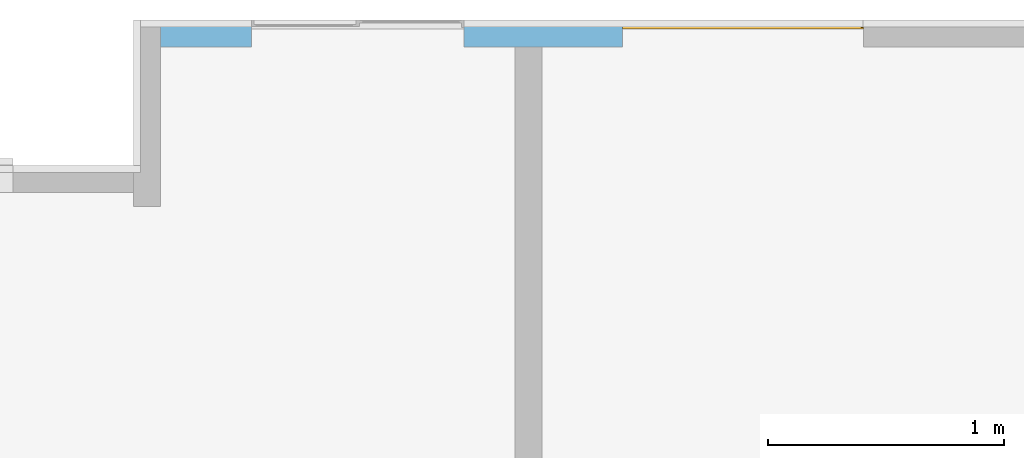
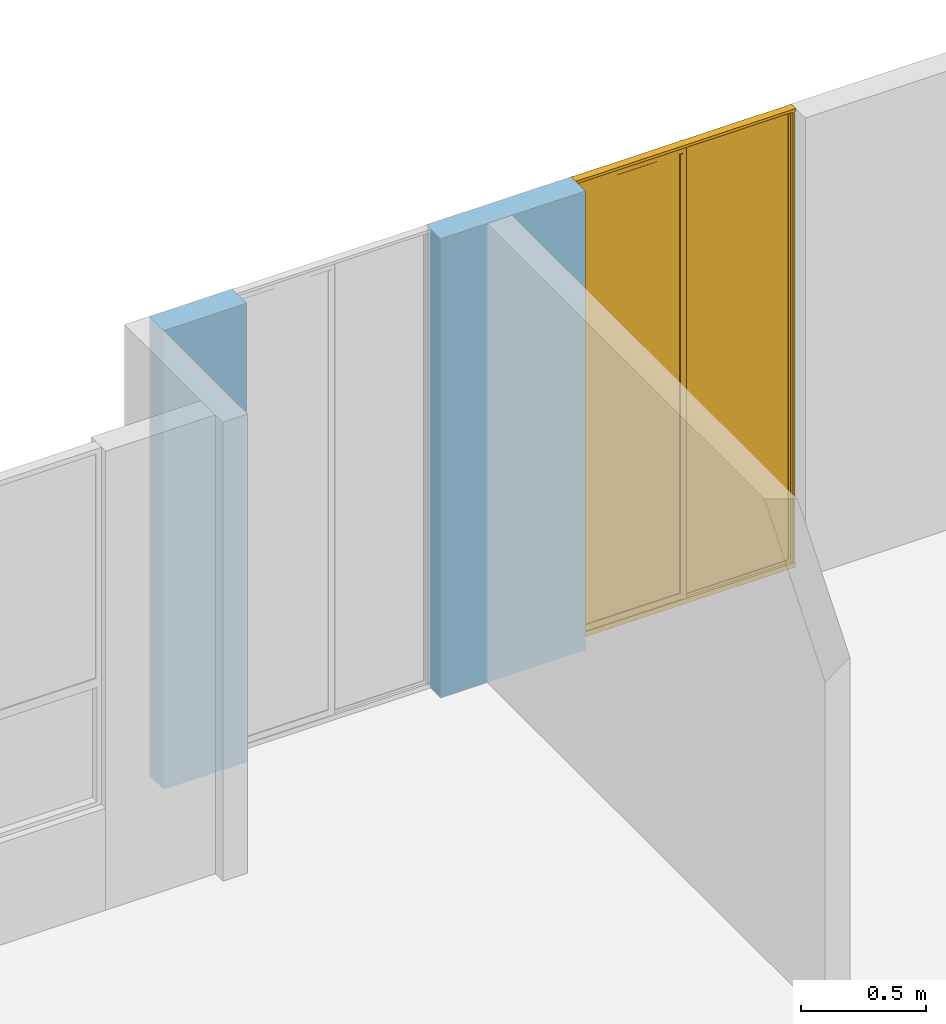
# One storey, part 25 of 48: 1 window, 2 openings, plus 1 element that does not belong to this part.
"""IFC4 building model written with IfcOpenShell, lengths in metres."""

from ifc_helpers import new_model, entity, si_unit, converted_unit, derived_unit, direction, frame, origin, place, context, subcontext, project, spatial, indexed_curve, outline, extrude, polygons, source, transform, mapped, material, constituent, constituent_set, type_object, type_shapes, element, fill, save


model = new_model("IFC4")

# Units and contexts
model_context = context("Model", 3, precision=1e-05, world=origin(), true_north=direction((6.123031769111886e-17, 1.0)))
body_context = subcontext(model_context, "Body", "Model", "MODEL_VIEW")
ifc_project = project(units=[si_unit("LENGTHUNIT", "METRE"), si_unit("AREAUNIT", "SQUARE_METRE"), si_unit("VOLUMEUNIT", "CUBIC_METRE"), converted_unit("PLANEANGLEUNIT", "DEGREE", entity("IfcRatioMeasure", 0.017453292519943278), si_unit("PLANEANGLEUNIT", "RADIAN"), dimensions=[0, 0, 0, 0, 0, 0, 0]), si_unit("MASSUNIT", "GRAM", prefix="KILO"), derived_unit("MASSDENSITYUNIT", [(si_unit("MASSUNIT", "GRAM", prefix="KILO"), 1), (si_unit("LENGTHUNIT", "METRE"), -3)]), derived_unit("IONCONCENTRATIONUNIT", [(si_unit("MASSUNIT", "GRAM", prefix="KILO"), 1), (si_unit("LENGTHUNIT", "METRE"), -3)]), derived_unit("MOMENTOFINERTIAUNIT", [(si_unit("LENGTHUNIT", "METRE"), 4)]), si_unit("TIMEUNIT", "SECOND"), si_unit("FREQUENCYUNIT", "HERTZ"), si_unit("THERMODYNAMICTEMPERATUREUNIT", "DEGREE_CELSIUS"), derived_unit("THERMALTRANSMITTANCEUNIT", [(si_unit("MASSUNIT", "GRAM", prefix="KILO"), 1), (si_unit("THERMODYNAMICTEMPERATUREUNIT", "KELVIN"), -1), (si_unit("TIMEUNIT", "SECOND"), -3)]), derived_unit("THERMALCONDUCTANCEUNIT", [(si_unit("MASSUNIT", "GRAM", prefix="KILO"), 1), (si_unit("THERMODYNAMICTEMPERATUREUNIT", "KELVIN"), -1), (si_unit("TIMEUNIT", "SECOND"), -3), (si_unit("LENGTHUNIT", "METRE"), 1)]), derived_unit("VOLUMETRICFLOWRATEUNIT", [(si_unit("LENGTHUNIT", "METRE"), 3), (si_unit("TIMEUNIT", "SECOND"), -1)]), derived_unit("MASSFLOWRATEUNIT", [(si_unit("MASSUNIT", "GRAM", prefix="KILO"), 1), (si_unit("TIMEUNIT", "SECOND"), -1)]), derived_unit("ROTATIONALFREQUENCYUNIT", [(si_unit("TIMEUNIT", "SECOND"), -1)]), si_unit("ELECTRICCURRENTUNIT", "AMPERE"), si_unit("ELECTRICVOLTAGEUNIT", "VOLT"), si_unit("POWERUNIT", "WATT"), si_unit("FORCEUNIT", "NEWTON", prefix="KILO"), si_unit("ILLUMINANCEUNIT", "LUX"), si_unit("LUMINOUSFLUXUNIT", "LUMEN"), si_unit("LUMINOUSINTENSITYUNIT", "CANDELA"), derived_unit("USERDEFINED", [(si_unit("MASSUNIT", "GRAM", prefix="KILO"), -1), (si_unit("LENGTHUNIT", "METRE"), -2), (si_unit("TIMEUNIT", "SECOND"), 3), (si_unit("LUMINOUSFLUXUNIT", "LUMEN"), 1)]), derived_unit("USERDEFINED", [(si_unit("MASSUNIT", "GRAM", prefix="KILO"), 1), (si_unit("TIMEUNIT", "SECOND"), -3), (si_unit("LENGTHUNIT", "METRE"), 3), (si_unit("ELECTRICCURRENTUNIT", "AMPERE"), -2)]), derived_unit("SOUNDPOWERUNIT", [(si_unit("MASSUNIT", "GRAM", prefix="KILO"), 1), (si_unit("TIMEUNIT", "SECOND"), -3), (si_unit("LENGTHUNIT", "METRE"), 2)]), derived_unit("SOUNDPRESSUREUNIT", [(si_unit("MASSUNIT", "GRAM", prefix="KILO"), 1), (si_unit("LENGTHUNIT", "METRE"), -1), (si_unit("TIMEUNIT", "SECOND"), -2)]), derived_unit("LINEARVELOCITYUNIT", [(si_unit("LENGTHUNIT", "METRE"), 1), (si_unit("TIMEUNIT", "SECOND"), -1)]), si_unit("PRESSUREUNIT", "PASCAL"), derived_unit("USERDEFINED", [(si_unit("MASSUNIT", "GRAM", prefix="KILO"), 1), (si_unit("LENGTHUNIT", "METRE"), -2), (si_unit("TIMEUNIT", "SECOND"), -2)]), derived_unit("LINEARFORCEUNIT", [(si_unit("MASSUNIT", "GRAM", prefix="KILO"), 1), (si_unit("TIMEUNIT", "SECOND"), -2)]), derived_unit("PLANARFORCEUNIT", [(si_unit("MASSUNIT", "GRAM", prefix="KILO"), 1), (si_unit("LENGTHUNIT", "METRE"), -1), (si_unit("TIMEUNIT", "SECOND"), -2)]), derived_unit("SPECIFICHEATCAPACITYUNIT", [(si_unit("THERMODYNAMICTEMPERATUREUNIT", "KELVIN"), -1), (si_unit("LENGTHUNIT", "METRE"), 2), (si_unit("TIMEUNIT", "SECOND"), -2)]), derived_unit("HEATINGVALUEUNIT", [(si_unit("LENGTHUNIT", "METRE"), 2), (si_unit("TIMEUNIT", "SECOND"), -2)]), derived_unit("VAPORPERMEABILITYUNIT", [(si_unit("LENGTHUNIT", "METRE"), -1), (si_unit("TIMEUNIT", "SECOND"), 1)]), derived_unit("DYNAMICVISCOSITYUNIT", [(si_unit("MASSUNIT", "GRAM", prefix="KILO"), 1), (si_unit("TIMEUNIT", "SECOND"), -1), (si_unit("LENGTHUNIT", "METRE"), -1)]), derived_unit("THERMALEXPANSIONCOEFFICIENTUNIT", [(si_unit("THERMODYNAMICTEMPERATUREUNIT", "KELVIN"), -1)]), derived_unit("MODULUSOFELASTICITYUNIT", [(si_unit("MASSUNIT", "GRAM", prefix="KILO"), 1), (si_unit("LENGTHUNIT", "METRE"), -1), (si_unit("TIMEUNIT", "SECOND"), -2)]), derived_unit("ISOTHERMALMOISTURECAPACITYUNIT", [(si_unit("LENGTHUNIT", "METRE"), 3), (si_unit("MASSUNIT", "GRAM", prefix="KILO"), -1)]), derived_unit("MOISTUREDIFFUSIVITYUNIT", [(si_unit("TIMEUNIT", "SECOND"), -1), (si_unit("LENGTHUNIT", "METRE"), 2)])], contexts=[model_context])

# Site, building, storey
site_placement = place(None, origin())
site = spatial("IfcSite", under=ifc_project, at=site_placement, Name="Default", CompositionType="ELEMENT")
building_placement = place(site_placement, origin())
building = spatial("IfcBuilding", under=site, at=building_placement, CompositionType="ELEMENT")
storey_placement = place(building_placement, frame((0.0, 0.0, 7.050000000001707)))
storey = spatial("IfcBuildingStorey", under=building, at=storey_placement, Name="Nivel 4", CompositionType="ELEMENT", Elevation=7.050000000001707)

# Wall, openings, window
ifc_material_1 = material(Name="Ladrillo claro (Aire)", Category="Materials")
wall_type = type_object("IfcWallType", Name="Basic Wall:B2010 - 0.115m - Muro exterior en mampostería - Ladrillo", PredefinedType="STANDARD")
wall_placement = place(storey_placement, frame((12.577500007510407, -0.03750002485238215, 0.0)))
wall = element("IfcWall", 1, at=wall_placement, inside=storey, type_object=wall_type, material=ifc_material_1, Name="Basic Wall:B2010 - 0.115m - Muro exterior en mampostería - Ladrillo", ObjectType="Basic Wall:B2010 - 0.115m - Muro exterior en mampostería - Ladrillo", PredefinedType="NOTDEFINED", context=body_context, shape_type="Tessellation", body=[
    polygons([(1.1388049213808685e-15, -0.05749999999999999, 2.2500000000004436), (1.1388049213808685e-15, -0.05749999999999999, -1.0828671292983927e-15), (0.38500000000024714, -0.0575, -1.0828671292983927e-15), (0.38500000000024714, -0.0575, 2.2500000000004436), (-2.3974804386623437e-16, 0.0575, -1.0828671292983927e-15), (0.3850000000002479, 0.0575, -1.0828671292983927e-15), (-2.3974804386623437e-16, 0.0575, 2.2500000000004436), (0.3850000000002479, 0.05750000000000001, 2.2500000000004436)], [[[1, 2, 3, 4]], [[2, 5, 6, 3]], [[2, 1, 7, 5]], [[4, 3, 6, 8]], [[7, 1, 4, 8]], [[5, 7, 8, 6]]], closed=True),
    polygons([(1.2850000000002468, 0.0575, -1.0828671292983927e-15), (1.2850000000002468, 0.05749999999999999, 2.2500000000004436), (1.9557999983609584, 0.05749999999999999, 2.2500000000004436), (1.9557999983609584, 0.0575, -1.0828671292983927e-15), (1.285000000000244, -0.05749999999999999, 2.2500000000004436), (1.499999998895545, -0.05749999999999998, 2.2500000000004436), (1.6149999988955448, -0.05749999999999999, 2.2500000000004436), (1.9557999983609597, -0.05749999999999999, 2.2500000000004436), (1.9557999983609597, -0.05749999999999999, -1.0828671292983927e-15), (1.285000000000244, -0.05749999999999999, -1.0828671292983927e-15), (1.6149999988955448, -0.05749999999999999, 0.0), (1.499999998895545, -0.05749999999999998, 0.0)], [[[1, 2, 3, 4]], [[2, 5, 6, 7, 8, 3]], [[8, 9, 4, 3]], [[10, 5, 2, 1]], [[10, 1, 4, 9, 11, 12]], [[5, 10, 12, 11, 9, 8, 7, 6]]], closed=True),
])
opening_1_placement = place(wall_placement, frame((1.2850000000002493, 0.057499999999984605, 0.0)))
element("IfcOpeningElement", 2, at=opening_1_placement, cuts=wall, Name="B2020 - Ventana corrediza 2C - Aluminio + Vidrio:B2020 - 0.90m x 2.25m - Ventana corrediza 2C - Aluminio + Vidrio:1", PredefinedType="OPENING", context=body_context, shape_type="SweptSolid", body=[
    extrude(outline(indexed_curve([(0.0, -1.3535839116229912e-16), (2.2499999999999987, -1.3535839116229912e-16), (2.249999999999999, 0.8999999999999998), (0.0, 0.8999999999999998), (0.0, -1.3535839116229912e-16)], self_intersect=False)), frame((0.0, 0.0, 0.0), z_axis=(0.0, -1.0, 0.0), x_axis=(0.0, 0.0, 1.0)), (0.0, 0.0, 1.0), 0.115),
])
opening_2_placement = place(wall_placement, frame((2.9757999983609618, 0.05749999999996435, 0.0)))
opening_2 = element("IfcOpeningElement", 3, at=opening_2_placement, cuts=wall, Name="B2020 - Ventana corrediza 2C - Aluminio + Vidrio:B2020 - 1.02m x 2.25m - Ventana corrediza 2C - Aluminio + Vidrio:1", PredefinedType="OPENING", context=body_context, shape_type="SweptSolid", body=[
    extrude(outline(indexed_curve([(0.0, -3.129589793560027e-32), (2.2499999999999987, -3.129589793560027e-32), (2.249999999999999, 1.0199999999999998), (0.0, 1.0199999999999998), (0.0, -3.129589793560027e-32)], self_intersect=False)), frame((0.0, 0.0, 0.0), z_axis=(0.0, -1.0, 0.0), x_axis=(0.0, 0.0, 1.0)), (0.0, 0.0, 1.0), 0.115),
])
ifc_material_2 = material(Name="Vidrio", Category="Materials")
ifc_constituent_1 = constituent(ifc_material_2, Name="Vidrio", Category="Materials")
ifc_material_3 = material(Name="<Unnamed>")
ifc_constituent_2 = constituent(ifc_material_3, Name="<Unnamed>")
ifc_constituent_set_1 = constituent_set(constituents=[ifc_constituent_1, ifc_constituent_2])
ifc_constituent_3 = constituent(ifc_material_2, Name="Vidrio", Category="Materials")
ifc_constituent_4 = constituent(ifc_material_3, Name="<Unnamed>")
ifc_constituent_set_2 = constituent_set(constituents=[ifc_constituent_3, ifc_constituent_4])
window_type = type_object("IfcWindowType", Name="B2020 - Ventana corrediza 2C - Aluminio + Vidrio:B2020 - 1.02m x 2.25m - Ventana corrediza 2C - Aluminio + Vidrio", PartitioningType="NOTDEFINED", PredefinedType="WINDOW", material=ifc_constituent_set_2)
shared_shape = source(origin(), body_context, "Body", "Tessellation", [
    polygons([(0.5301871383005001, 0.11311505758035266, 0.028641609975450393), (1.0000323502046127, 0.11311505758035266, 0.028641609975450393), (1.0000323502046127, 0.10801372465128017, 0.028641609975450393), (0.5301871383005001, 0.10801372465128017, 0.028641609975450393), (0.5301871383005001, 0.11311505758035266, 2.2347073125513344), (0.5301871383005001, 0.10801372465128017, 2.2347073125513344), (1.0000323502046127, 0.10801372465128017, 2.2347073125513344), (1.0000323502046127, 0.11311505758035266, 2.2347073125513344)], [[[1, 2, 3, 4]], [[5, 1, 4, 6]], [[6, 4, 3, 7]], [[7, 3, 2, 8]], [[8, 2, 1, 5]], [[5, 6, 7, 8]]], closed=True),
    polygons([(0.018846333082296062, 0.0962952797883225, 0.054189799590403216), (0.48827105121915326, 0.0962952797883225, 0.054189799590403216), (0.48827105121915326, 0.0919992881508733, 0.054189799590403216), (0.018846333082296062, 0.0919992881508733, 0.054189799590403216), (0.018846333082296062, 0.0962952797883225, 2.2043993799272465), (0.018846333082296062, 0.0919992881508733, 2.2043993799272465), (0.48827105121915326, 0.0919992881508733, 2.2043993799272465), (0.48827105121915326, 0.0962952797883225, 2.2043993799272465)], [[[1, 2, 3, 4]], [[5, 1, 4, 6]], [[6, 4, 3, 7]], [[7, 3, 2, 8]], [[8, 2, 1, 5]], [[5, 6, 7, 8]]], closed=True),
    polygons([(1.6039969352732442e-14, 0.08248628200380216, 0.020380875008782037), (1.6039969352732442e-14, 0.07981389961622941, 0.020380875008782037), (1.6039969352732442e-14, 0.07981389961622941, 0.025674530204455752), (1.6039969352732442e-14, 0.08106389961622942, 0.025674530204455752), (1.6039969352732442e-14, 0.08106389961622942, 0.02163087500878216), (1.6039969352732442e-14, 0.08373628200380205, 0.02163087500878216), (1.6039969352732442e-14, 0.08373628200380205, 0.017447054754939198), (1.6039969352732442e-14, 0.08932238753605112, 0.017447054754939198), (1.6039969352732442e-14, 0.08932238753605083, 2.24863686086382), (1.6039969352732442e-14, 0.0810593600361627, 2.24863686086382), (1.6039969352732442e-14, 0.0810593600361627, 2.2365872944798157), (1.6039969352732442e-14, 0.07969622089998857, 2.2365872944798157), (1.5972290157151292e-14, 0.07969622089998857, 2.2499999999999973), (1.6039969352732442e-14, 0.11748628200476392, 2.2499999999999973), (1.6039969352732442e-14, 0.11748628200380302, -2.5718094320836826e-15), (1.6039969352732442e-14, 0.08248628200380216, -2.5718094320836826e-15), (1.0200000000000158, 0.08248628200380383, 0.020380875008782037), (1.0200000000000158, 0.08248628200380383, -2.5718094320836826e-15), (1.0200000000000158, 0.11748628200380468, -2.5718094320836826e-15), (0.5166454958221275, 0.11748628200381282, 2.2499999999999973), (0.5166454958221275, 0.11748628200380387, 0.006176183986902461), (1.0100000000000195, 0.11748628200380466, 0.006176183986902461), (1.0100000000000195, 0.11748628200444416, 2.2499999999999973), (1.0200000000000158, 0.11748628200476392, 2.2499999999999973), (0.009897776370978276, 0.11748628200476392, 2.2499999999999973), (0.009897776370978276, 0.11748628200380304, 0.006176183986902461), (0.5033545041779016, 0.11748628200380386, 0.006176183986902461), (0.5033545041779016, 0.11748628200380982, 2.2499999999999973), (0.016298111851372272, 0.08932238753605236, 2.2069861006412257), (0.5033545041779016, 0.08932238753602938, 2.2069861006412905), (0.5033545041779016, 0.08932238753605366, 2.2043993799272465), (0.490819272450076, 0.08932238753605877, 2.2043993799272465), (0.4908192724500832, 0.08932238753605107, 0.0519155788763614), (0.01629811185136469, 0.0893223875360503, 0.0519155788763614), (0.01629811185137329, 0.08932238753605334, 2.237270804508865), (0.01629811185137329, 0.08932238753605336, 2.24863686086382), (0.003762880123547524, 0.08932238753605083, 0.017447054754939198), (0.003762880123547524, 0.08932238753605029, 0.02163087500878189), (0.5033545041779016, 0.08932238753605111, 0.021630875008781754), (0.5033545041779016, 0.08932238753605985, 0.017447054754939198), (0.5180471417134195, 0.08932238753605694, 0.017447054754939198), (0.5180471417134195, 0.08932238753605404, 2.24863686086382), (0.5033545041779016, 0.08932238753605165, 2.24863686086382), (0.5033545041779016, 0.0893223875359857, 2.237270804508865), (1.0200000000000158, 0.0837362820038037, 0.017447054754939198), (1.0200000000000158, 0.08548628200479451, 0.017447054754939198), (1.0100000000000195, 0.08548628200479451, 0.017447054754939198), (1.0100000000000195, 0.09284764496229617, 0.017447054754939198), (0.5180471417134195, 0.09284764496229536, 0.017447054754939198), (0.5033545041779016, 0.09284764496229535, 0.017447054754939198), (0.003762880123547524, 0.09284764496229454, 0.017447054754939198), (1.0200000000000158, 0.0837362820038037, 0.02163087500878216), (1.0200000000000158, 0.08106389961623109, 0.02163087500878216), (1.0200000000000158, 0.08106389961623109, 0.025674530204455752), (1.0200000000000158, 0.07981389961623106, 0.025674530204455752), (1.0200000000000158, 0.07981389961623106, 0.020380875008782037), (0.018842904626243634, 0.09629339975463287, 0.054191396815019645), (0.4882772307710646, 0.09629080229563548, 0.054191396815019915), (0.4908192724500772, 0.09897218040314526, 0.051915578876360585), (0.016298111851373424, 0.0989721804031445, 0.051915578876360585), (0.016298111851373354, 0.09897218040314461, 2.237270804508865), (0.016298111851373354, 0.09897218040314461, 2.24863686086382), (0.01884633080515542, 0.0962732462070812, 2.24863686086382), (0.01884631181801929, 0.0962733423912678, 2.237270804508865), (0.490819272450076, 0.09897218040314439, 2.2043993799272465), (0.5033545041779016, 0.09897218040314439, 2.2043993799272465), (0.5033545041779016, 0.0989721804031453, 0.02163087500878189), (0.009897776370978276, 0.09897218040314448, 0.021630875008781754), (0.009897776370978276, 0.09897218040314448, 2.24863686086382), (0.5033545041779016, 0.0989721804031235, 2.237270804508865), (0.5033545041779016, 0.09897218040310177, 2.2069861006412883), (0.016298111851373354, 0.09897218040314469, 2.206986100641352), (0.48827105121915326, 0.09628607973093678, 2.2043993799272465), (0.018840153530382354, 0.09200376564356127, 0.05419139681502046), (0.488274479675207, 0.0920011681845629, 0.05419139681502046), (0.018846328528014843, 0.09202132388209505, 2.24863686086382), (0.018846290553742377, 0.09202124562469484, 2.237270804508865), (0.48827105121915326, 0.09200839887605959, 2.20439928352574), (0.5180471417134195, 0.09284764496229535, 0.011279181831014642), (0.5180471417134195, 0.0961232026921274, 0.010600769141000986), (0.5180471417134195, 0.09612320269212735, 0.014402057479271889), (0.5180471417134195, 0.10582811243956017, 0.014402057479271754), (0.5180471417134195, 0.1058281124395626, 2.24863686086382), (0.5033545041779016, 0.0919994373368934, 2.2043993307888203), (0.003762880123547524, 0.09897218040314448, 0.021630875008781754), (0.003762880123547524, 0.09284764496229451, 0.011279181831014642), (0.003762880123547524, 0.0989721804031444, 0.010010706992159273), (0.009897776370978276, 0.0989721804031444, 0.010010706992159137), (0.009897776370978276, 0.1153006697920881, 2.2499999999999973), (0.009897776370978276, 0.11530066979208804, 2.2369062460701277), (0.009897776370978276, 0.11310173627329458, 2.2347073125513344), (0.009897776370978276, 0.10802704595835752, 2.2347073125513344), (0.009897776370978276, 0.10582811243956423, 2.2369062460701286), (0.009897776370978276, 0.10582811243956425, 2.24863686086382), (1.0200000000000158, 0.07969622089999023, 2.2499999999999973), (1.0200000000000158, 0.07969622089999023, 2.2365872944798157), (1.0200000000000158, 0.08105936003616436, 2.2365872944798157), (1.0200000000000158, 0.08105936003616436, 2.24863686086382), (1.0200000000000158, 0.08548628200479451, 2.24863686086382), (1.0100000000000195, 0.08548628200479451, 2.24863686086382), (1.0100000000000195, 0.09284764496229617, 0.011279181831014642), (1.0100000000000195, 0.10582811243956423, 2.24863686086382), (1.0100000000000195, 0.10582811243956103, 0.014402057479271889), (1.0100000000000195, 0.09612320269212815, 0.014402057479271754), (1.0100000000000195, 0.09612320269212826, 0.010600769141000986), (0.5166454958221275, 0.11530066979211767, 0.006628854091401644), (0.5166454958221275, 0.11530066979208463, 2.2499999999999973), (1.0100000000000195, 0.11530066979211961, 0.0066288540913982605), (1.0100000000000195, 0.11530066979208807, 2.2499999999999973), (0.5033545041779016, 0.11530066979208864, 2.2499999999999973), (0.5033545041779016, 0.11530066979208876, 2.2369062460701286), (0.5276389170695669, 0.11530066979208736, 0.02682441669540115), (0.5276389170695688, 0.11530066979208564, 2.236906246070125), (0.5301871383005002, 0.1131150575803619, 2.234713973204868), (0.5301871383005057, 0.1131150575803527, 0.028641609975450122), (1.0000323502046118, 0.11311505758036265, 0.028641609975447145), (1.0000323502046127, 0.11311505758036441, 2.2347139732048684), (1.0025805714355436, 0.11530066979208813, 2.236906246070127), (1.002580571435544, 0.1153006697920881, 0.02682441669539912), (1.0000323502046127, 0.10801372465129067, 0.02864160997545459), (0.5301871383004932, 0.10801372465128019, 0.028641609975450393), (0.5276389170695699, 0.10582811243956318, 0.02682441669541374), (1.002580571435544, 0.10582811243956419, 0.026824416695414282), (0.5276389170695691, 0.10582811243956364, 2.2369062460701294), (1.002580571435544, 0.10582811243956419, 2.23690624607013), (1.000031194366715, 0.10801638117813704, 2.2347113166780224), (0.5301882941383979, 0.1080163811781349, 2.234711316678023), (0.5033545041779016, 0.0962951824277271, 2.204399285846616), (0.018846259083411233, 0.09627365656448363, 2.204388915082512), (0.0188444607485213, 0.09201660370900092, 2.2043931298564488), (0.5033545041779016, 0.10582811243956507, 2.24863686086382), (0.5033545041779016, 0.10802704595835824, 2.2347073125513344), (0.5033545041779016, 0.10582811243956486, 2.2369062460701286), (0.5033545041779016, 0.11310173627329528, 2.2347073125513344), (0.5033545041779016, 0.09284764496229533, 0.011279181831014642)], [[[1, 2, 3, 4, 5, 6, 7, 8, 9, 10, 11, 12, 13, 14, 15, 16]], [[17, 1, 16, 18]], [[16, 15, 19, 18]], [[20, 21, 22, 23, 24, 19, 15, 14, 25, 26, 27, 28]], [[35, 36, 9, 8, 37, 38, 39, 40, 41, 42, 43, 44], [29, 30, 31, 32, 33, 34]], [[45, 46, 47, 48, 49, 41, 40, 50, 51, 37, 8, 7]], [[45, 7, 6, 52]], [[52, 6, 5, 53]], [[53, 5, 4, 54]], [[54, 4, 3, 55]], [[55, 3, 2, 56]], [[56, 2, 1, 17]], [[57, 58, 59, 60]], [[61, 62, 63, 64]], [[60, 59, 65, 66, 67, 68, 69, 62, 61, 70, 71, 72]], [[65, 59, 58, 73]], [[74, 75, 58, 57]], [[64, 63, 76, 77]], [[58, 75, 78, 73]], [[34, 33, 75, 74]], [[77, 76, 36, 35]], [[78, 75, 33, 32]], [[49, 79, 80, 81, 82, 83, 42, 41]], [[84, 31, 30]], [[39, 38, 85, 68, 67]], [[85, 38, 37, 51, 86, 87]], [[68, 85, 87, 88]], [[25, 89, 90, 91, 92, 93, 94, 69, 68, 88, 26]], [[17, 18, 19, 24, 95, 96, 97, 98, 99, 46, 45, 52, 53, 54, 55, 56]], [[46, 99, 100, 47]], [[49, 48, 101, 79]], [[47, 100, 102, 103, 104, 105, 101, 48]], [[79, 101, 105, 80]], [[106, 21, 20, 107]], [[23, 22, 108, 109]], [[110, 111, 90, 89]], [[80, 105, 104, 81]], [[112, 113, 114, 115]], [[116, 117, 118, 119]], [[119, 112, 115, 116]], [[120, 121, 122, 123]], [[103, 102, 83, 82], [122, 124, 125, 123]], [[123, 125, 126, 120]], [[121, 127, 124, 122]], [[81, 104, 103, 82]], [[120, 126, 117, 116]], [[116, 115, 121, 120]], [[115, 114, 127, 121]], [[13, 95, 24, 23, 109, 107, 20, 28, 110, 89, 25, 14]], [[72, 71, 128, 73, 129]], [[129, 73, 78, 130]], [[130, 78, 84, 30, 29]], [[77, 35, 44, 70, 61, 64]], [[31, 84, 78, 32]], [[97, 11, 10, 98]], [[96, 12, 11, 97]], [[95, 13, 12, 96]], [[118, 117, 114, 113]], [[127, 114, 117, 126]], [[124, 127, 126, 125]], [[10, 9, 36, 76, 63, 62, 69, 94, 131, 43, 42, 83, 102, 100, 99, 98]], [[132, 133, 93, 92]], [[134, 132, 92, 91]], [[111, 134, 91, 90]], [[73, 128, 66, 65]], [[133, 131, 94, 93]], [[109, 108, 106, 107], [112, 119, 118, 113]], [[106, 108, 22, 21]], [[27, 26, 88, 87, 86, 135]], [[135, 86, 51, 50]], [[27, 135, 50, 40, 39, 67, 66, 128, 71, 70, 44, 43, 131, 133, 132, 134, 111, 110, 28]], [[74, 130, 29, 34]], [[57, 129, 130, 74]], [[60, 72, 129, 57]]], closed=True),
])
type_shapes(window_type, [shared_shape])
window_placement = place(opening_2_placement, frame((-1.0200000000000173, -0.11748628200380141, 0.0)))
window = element("IfcWindow", 4, at=window_placement, inside=storey, type_object=window_type, material=ifc_constituent_set_1, Name="B2020 - Ventana corrediza 2C - Aluminio + Vidrio:B2020 - 1.02m x 2.25m - Ventana corrediza 2C - Aluminio + Vidrio", ObjectType="B2020 - Ventana corrediza 2C - Aluminio + Vidrio:B2020 - 1.02m x 2.25m - Ventana corrediza 2C - Aluminio + Vidrio", OverallHeight=2.2499999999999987, OverallWidth=1.0199999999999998, PartitioningType="NOTDEFINED", PredefinedType="WINDOW", context=body_context, shape_type="MappedRepresentation", body=[
    mapped(shared_shape, transform((0.0, 0.0, 0.0), scale=1.0)),
])
fill(opening_2, window)

save(model, "model.ifc")
